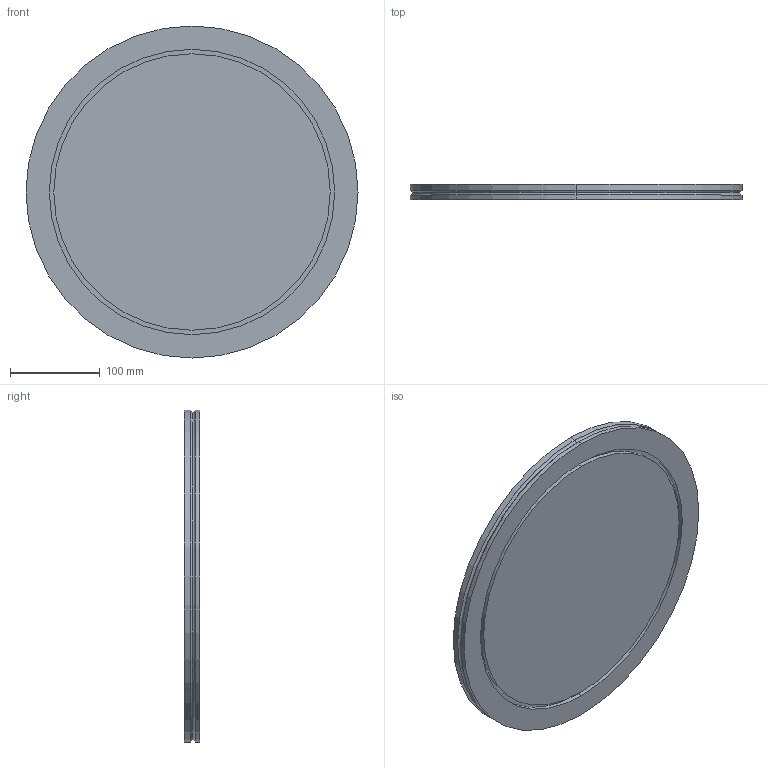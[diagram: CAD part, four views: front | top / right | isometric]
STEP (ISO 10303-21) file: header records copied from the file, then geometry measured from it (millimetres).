
FILE_DESCRIPTION (( 'STEP AP214' ), '1' );
FILE_NAME ('W4BF320.STEP', '2019-03-27T09:54:00', ( '' ), ( '' ), 'SwSTEP 2.0', 'SolidWorks 2018', '' );
FILE_SCHEMA (( 'AUTOMOTIVE_DESIGN' ));
Length unit declared in the file: millimetre
Products named in the file (1): W4BF320
Bounding box: 370 x 17 x 370 mm (x, y, z)
Volume: 1773683.1 mm3; surface area: 252375 mm2
Topology: 1 solids, 1 shells, 22 faces, 42 edges, 26 vertices
Faces by surface type: cylinder 12, plane 6, torus 4
Entity records: 602 total; most frequent: DIRECTION 118, CARTESIAN_POINT 91, ORIENTED_EDGE 84, AXIS2_PLACEMENT_3D 53, EDGE_CURVE 42, CIRCLE 30, EDGE_LOOP 26, VERTEX_POINT 26
